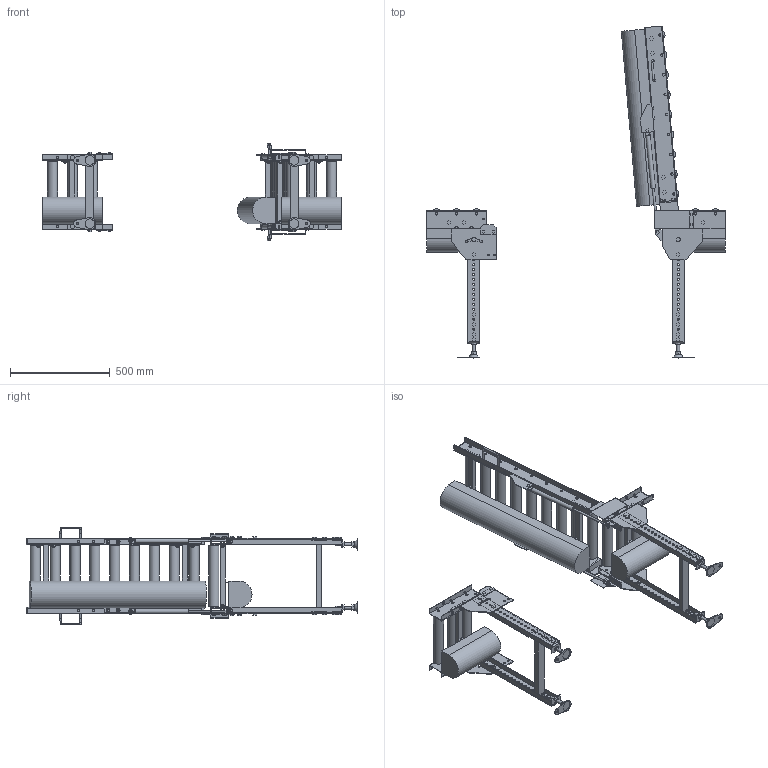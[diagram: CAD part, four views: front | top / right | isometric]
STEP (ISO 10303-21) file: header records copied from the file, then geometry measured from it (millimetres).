
FILE_DESCRIPTION( (''), '2;1');
FILE_NAME ('WEB-MCD50-315-100-90-R-HU.stp','2025-07-01T15:58:44',(''),(''),'spGate 20.6.2 (****-****-****-****)','','');
FILE_SCHEMA (('AUTOMOTIVE_DESIGN'));
Length unit declared in the file: millimetre
Products named in the file (21): WEB-MCD50-315-100-90-R-HU; TEMP_X_T-prt0; TEMP_X_T-prt1; TEMP_X_T-prt2; TEMP_X_T-prt3; TEMP_X_T-prt4; TEMP_X_T-prt5; TEMP_X_T-prt6; TEMP_X_T-prt7; TEMP_X_T-prt8; TEMP_X_T-prt9; TEMP_X_T-prt10; TEMP_X_T-prt11; TEMP_X_T-prt12; TEMP_X_T-prt13; TEMP_X_T-prt14; TEMP_X_T-prt15; TEMP_X_T-prt16; TEMP_X_T-prt17; TEMP_X_T-prt18; TEMP_X_T-prt19
Assembly tree (20 placements, depth 2):
  WEB-MCD50-315-100-90-R-HU
    TEMP_X_T-prt0
    TEMP_X_T-prt1
    TEMP_X_T-prt2
    TEMP_X_T-prt3
    TEMP_X_T-prt4
    TEMP_X_T-prt5
    TEMP_X_T-prt6
    TEMP_X_T-prt7
    TEMP_X_T-prt8
    TEMP_X_T-prt9
    TEMP_X_T-prt10
    TEMP_X_T-prt11
    TEMP_X_T-prt12
    TEMP_X_T-prt13
    TEMP_X_T-prt14
    TEMP_X_T-prt15
    TEMP_X_T-prt16
    TEMP_X_T-prt17
    TEMP_X_T-prt18
    TEMP_X_T-prt19
Bounding box: 1500 x 1665.85 x 491.39 mm (x, y, z)
Volume: 35014225.6 mm3; surface area: 3781085.2 mm2
Topology: 20 solids, 46 shells, 2549 faces, 6457 edges, 4247 vertices
Faces by surface type: plane 2105, cylinder 426, bspline 18
Full cylindrical faces by diameter (mm): 8 x8, 8.5 x8, 9 x20, 10 x58, 10.5 x96, 11 x8, 12 x32, 13 x12, 14 x4, 15 x6, 15.4 x2, 15.7 x2, 16 x10, 17 x4, 18 x6, 18.4 x28, 18.5 x8, 21 x12, 22 x2, 50.8 x15
Entity records: 130674 total; most frequent: CARTESIAN_POINT 14744, DIRECTION 13024, ORIENTED_EDGE 12914, COLOUR_RGB 9026, PRESENTATION_STYLE_ASSIGNMENT 9026, STYLED_ITEM 9026, EDGE_CURVE 6457, DRAUGHTING_PRE_DEFINED_CURVE_FONT 6457
